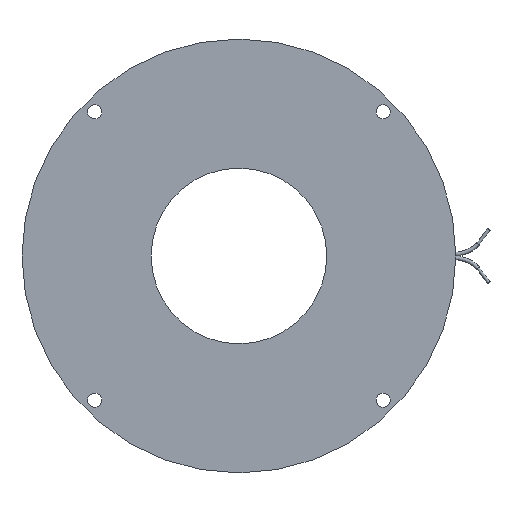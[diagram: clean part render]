
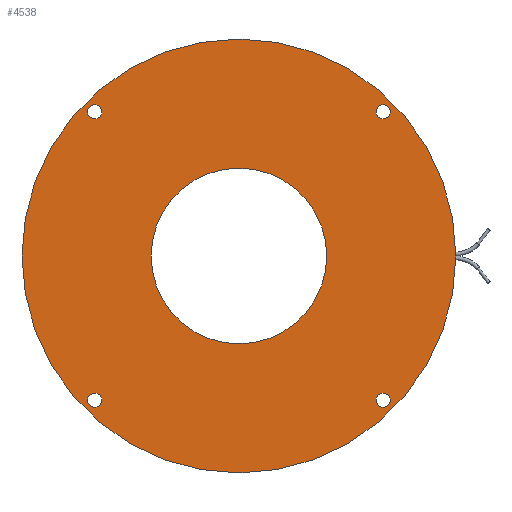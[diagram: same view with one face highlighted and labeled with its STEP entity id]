
A CAD part, left-side view. The second image highlights one B-rep face of the part: STEP entity #4538.
In plain terms, the highlighted planar face has unit normal (-1, 0, 0).
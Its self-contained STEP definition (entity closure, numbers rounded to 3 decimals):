
#59=FACE_BOUND('',#530,.T.);
#60=FACE_BOUND('',#531,.T.);
#61=FACE_BOUND('',#532,.T.);
#62=FACE_BOUND('',#533,.T.);
#63=FACE_BOUND('',#534,.T.);
#116=PLANE('',#5063);
#271=FACE_OUTER_BOUND('',#529,.T.);
#529=EDGE_LOOP('',(#3353,#3354));
#530=EDGE_LOOP('',(#3355));
#531=EDGE_LOOP('',(#3356));
#532=EDGE_LOOP('',(#3357));
#533=EDGE_LOOP('',(#3358));
#534=EDGE_LOOP('',(#3359,#3360));
#941=CIRCLE('',#5016,34.);
#942=CIRCLE('',#5017,34.);
#943=CIRCLE('',#5019,84.);
#944=CIRCLE('',#5020,84.);
#973=CIRCLE('',#5055,2.75);
#974=CIRCLE('',#5057,2.75);
#975=CIRCLE('',#5059,2.75);
#976=CIRCLE('',#5061,2.75);
#1762=VERTEX_POINT('',#7818);
#1763=VERTEX_POINT('',#7819);
#1764=VERTEX_POINT('',#7824);
#1765=VERTEX_POINT('',#7825);
#1792=VERTEX_POINT('',#7960);
#1793=VERTEX_POINT('',#7964);
#1794=VERTEX_POINT('',#7968);
#1795=VERTEX_POINT('',#7972);
#2333=EDGE_CURVE('',#1762,#1763,#941,.T.);
#2335=EDGE_CURVE('',#1763,#1762,#942,.T.);
#2336=EDGE_CURVE('',#1764,#1765,#943,.T.);
#2337=EDGE_CURVE('',#1765,#1764,#944,.T.);
#2380=EDGE_CURVE('',#1792,#1792,#973,.T.);
#2382=EDGE_CURVE('',#1793,#1793,#974,.T.);
#2384=EDGE_CURVE('',#1794,#1794,#975,.T.);
#2386=EDGE_CURVE('',#1795,#1795,#976,.T.);
#3353=ORIENTED_EDGE('',*,*,#2336,.T.);
#3354=ORIENTED_EDGE('',*,*,#2337,.T.);
#3355=ORIENTED_EDGE('',*,*,#2386,.T.);
#3356=ORIENTED_EDGE('',*,*,#2384,.T.);
#3357=ORIENTED_EDGE('',*,*,#2382,.T.);
#3358=ORIENTED_EDGE('',*,*,#2380,.T.);
#3359=ORIENTED_EDGE('',*,*,#2333,.F.);
#3360=ORIENTED_EDGE('',*,*,#2335,.F.);
#4538=ADVANCED_FACE('',(#271,#59,#60,#61,#62,#63),#116,.T.);
#5016=AXIS2_PLACEMENT_3D('',#7820,#6151,#6152);
#5017=AXIS2_PLACEMENT_3D('',#7822,#6154,#6155);
#5019=AXIS2_PLACEMENT_3D('',#7826,#6158,#6159);
#5020=AXIS2_PLACEMENT_3D('',#7827,#6160,#6161);
#5055=AXIS2_PLACEMENT_3D('',#7962,#6240,#6241);
#5057=AXIS2_PLACEMENT_3D('',#7966,#6245,#6246);
#5059=AXIS2_PLACEMENT_3D('',#7970,#6250,#6251);
#5061=AXIS2_PLACEMENT_3D('',#7974,#6255,#6256);
#5063=AXIS2_PLACEMENT_3D('',#7976,#6259,#6260);
#6151=DIRECTION('center_axis',(-1.,0.,0.));
#6152=DIRECTION('ref_axis',(0.,1.,0.));
#6154=DIRECTION('center_axis',(-1.,0.,0.));
#6155=DIRECTION('ref_axis',(0.,1.,0.));
#6158=DIRECTION('center_axis',(-1.,0.,0.));
#6159=DIRECTION('ref_axis',(0.,1.,0.));
#6160=DIRECTION('center_axis',(-1.,0.,0.));
#6161=DIRECTION('ref_axis',(0.,1.,0.));
#6240=DIRECTION('center_axis',(1.,0.,0.));
#6241=DIRECTION('ref_axis',(0.,0.,
-1.));
#6245=DIRECTION('center_axis',(1.,0.,0.));
#6246=DIRECTION('ref_axis',(0.,0.,
-1.));
#6250=DIRECTION('center_axis',(1.,0.,0.));
#6251=DIRECTION('ref_axis',(0.,0.,
-1.));
#6255=DIRECTION('center_axis',(1.,0.,0.));
#6256=DIRECTION('ref_axis',(0.,0.,
-1.));
#6259=DIRECTION('center_axis',(-1.,0.,0.));
#6260=DIRECTION('ref_axis',(0.,0.,1.));
#7818=CARTESIAN_POINT('',(-41.6,34.,0.));
#7819=CARTESIAN_POINT('',(-41.6,-34.,0.));
#7820=CARTESIAN_POINT('Origin',(-41.6,0.,0.));
#7822=CARTESIAN_POINT('Origin',(-41.6,0.,0.));
#7824=CARTESIAN_POINT('',(-41.6,84.,0.));
#7825=CARTESIAN_POINT('',(-41.6,-84.,0.));
#7826=CARTESIAN_POINT('Origin',(-41.6,0.,0.));
#7827=CARTESIAN_POINT('Origin',(-41.6,0.,0.));
#7960=CARTESIAN_POINT('',(-41.6,55.861,-53.111));
#7962=CARTESIAN_POINT('Origin',(-41.6,55.861,-55.861));
#7964=CARTESIAN_POINT('',(-41.6,-55.861,58.611));
#7966=CARTESIAN_POINT('Origin',(-41.6,-55.861,55.861));
#7968=CARTESIAN_POINT('',(-41.6,55.861,58.611));
#7970=CARTESIAN_POINT('Origin',(-41.6,55.861,55.861));
#7972=CARTESIAN_POINT('',(-41.6,-55.861,-53.111));
#7974=CARTESIAN_POINT('Origin',(-41.6,-55.861,-55.861));
#7976=CARTESIAN_POINT('Origin',(-41.6,59.,0.));
